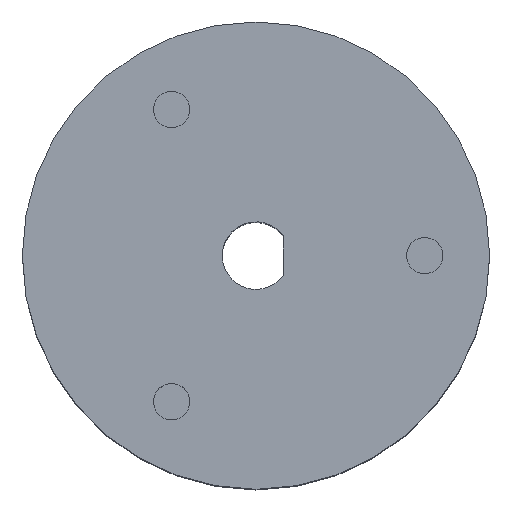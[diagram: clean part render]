
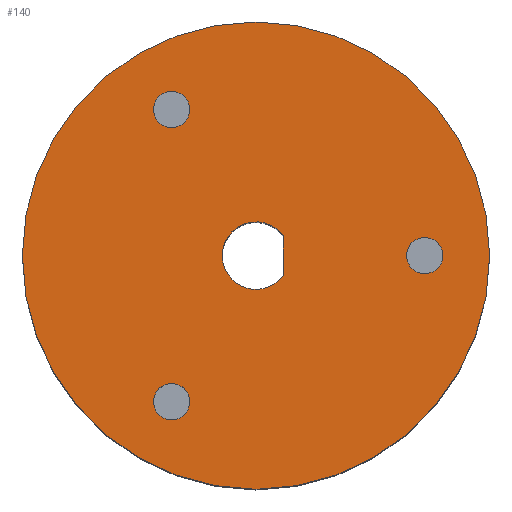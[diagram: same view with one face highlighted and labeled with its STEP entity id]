
A CAD part, top view. The second image highlights one B-rep face of the part: STEP entity #140.
In plain terms, the highlighted planar face has unit normal (0, 0, 1).
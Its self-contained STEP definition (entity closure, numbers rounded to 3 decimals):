
#24 = VERTEX_POINT('',#25);
#25 = CARTESIAN_POINT('',(18.,0.,32.));
#32 = CYLINDRICAL_SURFACE('',#33,18.);
#33 = AXIS2_PLACEMENT_3D('',#34,#35,#36);
#34 = CARTESIAN_POINT('',(0.,0.,29.));
#35 = DIRECTION('',(-0.,-0.,-1.));
#36 = DIRECTION('',(1.,0.,0.));
#51 = EDGE_CURVE('',#24,#24,#52,.T.);
#52 = SURFACE_CURVE('',#53,(#58,#65),.PCURVE_S1.);
#53 = CIRCLE('',#54,18.);
#54 = AXIS2_PLACEMENT_3D('',#55,#56,#57);
#55 = CARTESIAN_POINT('',(0.,0.,32.));
#56 = DIRECTION('',(0.,0.,1.));
#57 = DIRECTION('',(1.,0.,0.));
#58 = PCURVE('',#32,#59);
#59 = DEFINITIONAL_REPRESENTATION('',(#60),#64);
#60 = LINE('',#61,#62);
#61 = CARTESIAN_POINT('',(-0.,-3.));
#62 = VECTOR('',#63,1.);
#63 = DIRECTION('',(-1.,0.));
#64 = ( GEOMETRIC_REPRESENTATION_CONTEXT(2) 
PARAMETRIC_REPRESENTATION_CONTEXT() REPRESENTATION_CONTEXT('2D SPACE',''
  ) );
#65 = PCURVE('',#66,#71);
#66 = PLANE('',#67);
#67 = AXIS2_PLACEMENT_3D('',#68,#69,#70);
#68 = CARTESIAN_POINT('',(0.,0.,32.));
#69 = DIRECTION('',(0.,0.,1.));
#70 = DIRECTION('',(1.,0.,-0.));
#71 = DEFINITIONAL_REPRESENTATION('',(#72),#76);
#72 = CIRCLE('',#73,18.);
#73 = AXIS2_PLACEMENT_2D('',#74,#75);
#74 = CARTESIAN_POINT('',(0.,0.));
#75 = DIRECTION('',(1.,0.));
#76 = ( GEOMETRIC_REPRESENTATION_CONTEXT(2) 
PARAMETRIC_REPRESENTATION_CONTEXT() REPRESENTATION_CONTEXT('2D SPACE',''
  ) );
#140 = ADVANCED_FACE('',(#141,#144,#175,#238,#269),#66,.T.);
#141 = FACE_BOUND('',#142,.T.);
#142 = EDGE_LOOP('',(#143));
#143 = ORIENTED_EDGE('',*,*,#51,.T.);
#144 = FACE_BOUND('',#145,.T.);
#145 = EDGE_LOOP('',(#146));
#146 = ORIENTED_EDGE('',*,*,#147,.F.);
#147 = EDGE_CURVE('',#148,#148,#150,.T.);
#148 = VERTEX_POINT('',#149);
#149 = CARTESIAN_POINT('',(-5.1,-11.258,32.));
#150 = SURFACE_CURVE('',#151,(#156,#163),.PCURVE_S1.);
#151 = CIRCLE('',#152,1.4);
#152 = AXIS2_PLACEMENT_3D('',#153,#154,#155);
#153 = CARTESIAN_POINT('',(-6.5,-11.258,32.));
#154 = DIRECTION('',(0.,0.,1.));
#155 = DIRECTION('',(1.,0.,0.));
#156 = PCURVE('',#66,#157);
#157 = DEFINITIONAL_REPRESENTATION('',(#158),#162);
#158 = CIRCLE('',#159,1.4);
#159 = AXIS2_PLACEMENT_2D('',#160,#161);
#160 = CARTESIAN_POINT('',(-6.5,-11.258));
#161 = DIRECTION('',(1.,0.));
#162 = ( GEOMETRIC_REPRESENTATION_CONTEXT(2) 
PARAMETRIC_REPRESENTATION_CONTEXT() REPRESENTATION_CONTEXT('2D SPACE',''
  ) );
#163 = PCURVE('',#164,#169);
#164 = CYLINDRICAL_SURFACE('',#165,1.4);
#165 = AXIS2_PLACEMENT_3D('',#166,#167,#168);
#166 = CARTESIAN_POINT('',(-6.5,-11.258,29.15));
#167 = DIRECTION('',(-0.,-0.,-1.));
#168 = DIRECTION('',(1.,0.,0.));
#169 = DEFINITIONAL_REPRESENTATION('',(#170),#174);
#170 = LINE('',#171,#172);
#171 = CARTESIAN_POINT('',(-0.,-2.85));
#172 = VECTOR('',#173,1.);
#173 = DIRECTION('',(-1.,0.));
#174 = ( GEOMETRIC_REPRESENTATION_CONTEXT(2) 
PARAMETRIC_REPRESENTATION_CONTEXT() REPRESENTATION_CONTEXT('2D SPACE',''
  ) );
#175 = FACE_BOUND('',#176,.T.);
#176 = EDGE_LOOP('',(#177,#207));
#177 = ORIENTED_EDGE('',*,*,#178,.F.);
#178 = EDGE_CURVE('',#179,#181,#183,.T.);
#179 = VERTEX_POINT('',#180);
#180 = CARTESIAN_POINT('',(2.1,-1.533,32.));
#181 = VERTEX_POINT('',#182);
#182 = CARTESIAN_POINT('',(2.1,1.533,32.));
#183 = SURFACE_CURVE('',#184,(#188,#195),.PCURVE_S1.);
#184 = LINE('',#185,#186);
#185 = CARTESIAN_POINT('',(2.1,-2.6,32.));
#186 = VECTOR('',#187,1.);
#187 = DIRECTION('',(0.,1.,0.));
#188 = PCURVE('',#66,#189);
#189 = DEFINITIONAL_REPRESENTATION('',(#190),#194);
#190 = LINE('',#191,#192);
#191 = CARTESIAN_POINT('',(2.1,-2.6));
#192 = VECTOR('',#193,1.);
#193 = DIRECTION('',(0.,1.));
#194 = ( GEOMETRIC_REPRESENTATION_CONTEXT(2) 
PARAMETRIC_REPRESENTATION_CONTEXT() REPRESENTATION_CONTEXT('2D SPACE',''
  ) );
#195 = PCURVE('',#196,#201);
#196 = PLANE('',#197);
#197 = AXIS2_PLACEMENT_3D('',#198,#199,#200);
#198 = CARTESIAN_POINT('',(2.1,-2.6,-32.));
#199 = DIRECTION('',(1.,0.,0.));
#200 = DIRECTION('',(0.,0.,1.));
#201 = DEFINITIONAL_REPRESENTATION('',(#202),#206);
#202 = LINE('',#203,#204);
#203 = CARTESIAN_POINT('',(64.,0.));
#204 = VECTOR('',#205,1.);
#205 = DIRECTION('',(0.,-1.));
#206 = ( GEOMETRIC_REPRESENTATION_CONTEXT(2) 
PARAMETRIC_REPRESENTATION_CONTEXT() REPRESENTATION_CONTEXT('2D SPACE',''
  ) );
#207 = ORIENTED_EDGE('',*,*,#208,.T.);
#208 = EDGE_CURVE('',#179,#181,#209,.T.);
#209 = SURFACE_CURVE('',#210,(#215,#226),.PCURVE_S1.);
#210 = CIRCLE('',#211,2.6);
#211 = AXIS2_PLACEMENT_3D('',#212,#213,#214);
#212 = CARTESIAN_POINT('',(0.,0.,32.));
#213 = DIRECTION('',(0.,0.,-1.));
#214 = DIRECTION('',(0.808,-0.59,0.));
#215 = PCURVE('',#66,#216);
#216 = DEFINITIONAL_REPRESENTATION('',(#217),#225);
#217 = ( BOUNDED_CURVE() B_SPLINE_CURVE(2,(#218,#219,#220,#221,#222,#223
,#224),.UNSPECIFIED.,.T.,.F.) B_SPLINE_CURVE_WITH_KNOTS((1,2,2,2,2,1),(
    -2.094,0.,2.094,4.189,6.283,
8.378),.UNSPECIFIED.) CURVE() GEOMETRIC_REPRESENTATION_ITEM() 
RATIONAL_B_SPLINE_CURVE((1.,0.5,1.,0.5,1.,0.5,1.)) REPRESENTATION_ITEM(
  '') );
#218 = CARTESIAN_POINT('',(2.1,-1.533));
#219 = CARTESIAN_POINT('',(-0.555,-5.17));
#220 = CARTESIAN_POINT('',(-2.378,-1.052));
#221 = CARTESIAN_POINT('',(-4.2,3.066));
#222 = CARTESIAN_POINT('',(0.278,2.585));
#223 = CARTESIAN_POINT('',(4.755,2.104));
#224 = CARTESIAN_POINT('',(2.1,-1.533));
#225 = ( GEOMETRIC_REPRESENTATION_CONTEXT(2) 
PARAMETRIC_REPRESENTATION_CONTEXT() REPRESENTATION_CONTEXT('2D SPACE',''
  ) );
#226 = PCURVE('',#227,#232);
#227 = CYLINDRICAL_SURFACE('',#228,2.6);
#228 = AXIS2_PLACEMENT_3D('',#229,#230,#231);
#229 = CARTESIAN_POINT('',(0.,0.,-32.));
#230 = DIRECTION('',(-0.,-0.,-1.));
#231 = DIRECTION('',(1.,0.,0.));
#232 = DEFINITIONAL_REPRESENTATION('',(#233),#237);
#233 = LINE('',#234,#235);
#234 = CARTESIAN_POINT('',(-5.653,-64.));
#235 = VECTOR('',#236,1.);
#236 = DIRECTION('',(1.,-0.));
#237 = ( GEOMETRIC_REPRESENTATION_CONTEXT(2) 
PARAMETRIC_REPRESENTATION_CONTEXT() REPRESENTATION_CONTEXT('2D SPACE',''
  ) );
#238 = FACE_BOUND('',#239,.T.);
#239 = EDGE_LOOP('',(#240));
#240 = ORIENTED_EDGE('',*,*,#241,.F.);
#241 = EDGE_CURVE('',#242,#242,#244,.T.);
#242 = VERTEX_POINT('',#243);
#243 = CARTESIAN_POINT('',(14.4,0.,32.));
#244 = SURFACE_CURVE('',#245,(#250,#257),.PCURVE_S1.);
#245 = CIRCLE('',#246,1.4);
#246 = AXIS2_PLACEMENT_3D('',#247,#248,#249);
#247 = CARTESIAN_POINT('',(13.,0.,32.));
#248 = DIRECTION('',(0.,0.,1.));
#249 = DIRECTION('',(1.,0.,0.));
#250 = PCURVE('',#66,#251);
#251 = DEFINITIONAL_REPRESENTATION('',(#252),#256);
#252 = CIRCLE('',#253,1.4);
#253 = AXIS2_PLACEMENT_2D('',#254,#255);
#254 = CARTESIAN_POINT('',(13.,0.));
#255 = DIRECTION('',(1.,0.));
#256 = ( GEOMETRIC_REPRESENTATION_CONTEXT(2) 
PARAMETRIC_REPRESENTATION_CONTEXT() REPRESENTATION_CONTEXT('2D SPACE',''
  ) );
#257 = PCURVE('',#258,#263);
#258 = CYLINDRICAL_SURFACE('',#259,1.4);
#259 = AXIS2_PLACEMENT_3D('',#260,#261,#262);
#260 = CARTESIAN_POINT('',(13.,0.,29.15));
#261 = DIRECTION('',(-0.,-0.,-1.));
#262 = DIRECTION('',(1.,0.,0.));
#263 = DEFINITIONAL_REPRESENTATION('',(#264),#268);
#264 = LINE('',#265,#266);
#265 = CARTESIAN_POINT('',(-0.,-2.85));
#266 = VECTOR('',#267,1.);
#267 = DIRECTION('',(-1.,0.));
#268 = ( GEOMETRIC_REPRESENTATION_CONTEXT(2) 
PARAMETRIC_REPRESENTATION_CONTEXT() REPRESENTATION_CONTEXT('2D SPACE',''
  ) );
#269 = FACE_BOUND('',#270,.T.);
#270 = EDGE_LOOP('',(#271));
#271 = ORIENTED_EDGE('',*,*,#272,.F.);
#272 = EDGE_CURVE('',#273,#273,#275,.T.);
#273 = VERTEX_POINT('',#274);
#274 = CARTESIAN_POINT('',(-5.1,11.258,32.));
#275 = SURFACE_CURVE('',#276,(#281,#288),.PCURVE_S1.);
#276 = CIRCLE('',#277,1.4);
#277 = AXIS2_PLACEMENT_3D('',#278,#279,#280);
#278 = CARTESIAN_POINT('',(-6.5,11.258,32.));
#279 = DIRECTION('',(0.,0.,1.));
#280 = DIRECTION('',(1.,0.,0.));
#281 = PCURVE('',#66,#282);
#282 = DEFINITIONAL_REPRESENTATION('',(#283),#287);
#283 = CIRCLE('',#284,1.4);
#284 = AXIS2_PLACEMENT_2D('',#285,#286);
#285 = CARTESIAN_POINT('',(-6.5,11.258));
#286 = DIRECTION('',(1.,0.));
#287 = ( GEOMETRIC_REPRESENTATION_CONTEXT(2) 
PARAMETRIC_REPRESENTATION_CONTEXT() REPRESENTATION_CONTEXT('2D SPACE',''
  ) );
#288 = PCURVE('',#289,#294);
#289 = CYLINDRICAL_SURFACE('',#290,1.4);
#290 = AXIS2_PLACEMENT_3D('',#291,#292,#293);
#291 = CARTESIAN_POINT('',(-6.5,11.258,29.15));
#292 = DIRECTION('',(-0.,-0.,-1.));
#293 = DIRECTION('',(1.,0.,0.));
#294 = DEFINITIONAL_REPRESENTATION('',(#295),#299);
#295 = LINE('',#296,#297);
#296 = CARTESIAN_POINT('',(-0.,-2.85));
#297 = VECTOR('',#298,1.);
#298 = DIRECTION('',(-1.,0.));
#299 = ( GEOMETRIC_REPRESENTATION_CONTEXT(2) 
PARAMETRIC_REPRESENTATION_CONTEXT() REPRESENTATION_CONTEXT('2D SPACE',''
  ) );
